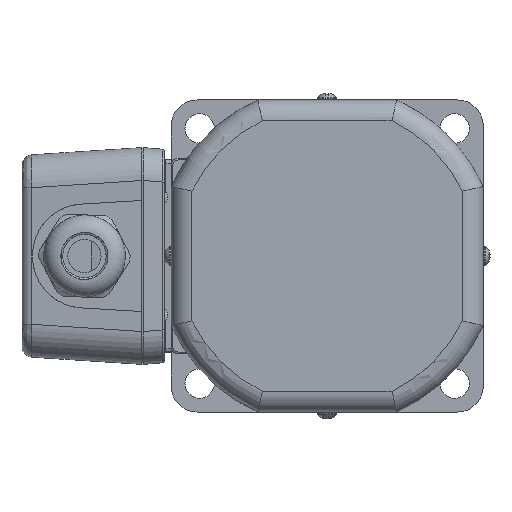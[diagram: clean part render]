
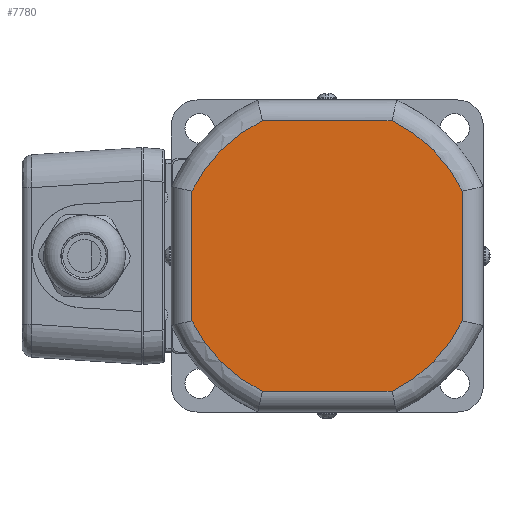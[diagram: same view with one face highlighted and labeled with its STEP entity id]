
A CAD part, left-side view. The second image highlights one B-rep face of the part: STEP entity #7780.
In plain terms, the highlighted planar face has unit normal (-1, 0, 0).
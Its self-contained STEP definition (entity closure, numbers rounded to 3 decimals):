
#446=LINE('',#11976,#1016);
#447=LINE('',#11980,#1017);
#448=LINE('',#11984,#1018);
#449=LINE('',#11988,#1019);
#1016=VECTOR('',#9273,37.393);
#1017=VECTOR('',#9276,37.393);
#1018=VECTOR('',#9279,37.393);
#1019=VECTOR('',#9282,37.393);
#1835=FACE_OUTER_BOUND('',#2330,.T.);
#2330=EDGE_LOOP('',(#5243,#5244,#5245,#5246,#5247,#5248,#5249,#5250));
#2838=CIRCLE('',#8311,43.25);
#2839=CIRCLE('',#8312,43.25);
#2840=CIRCLE('',#8313,43.25);
#2841=CIRCLE('',#8314,43.25);
#3186=VERTEX_POINT('',#11974);
#3187=VERTEX_POINT('',#11975);
#3188=VERTEX_POINT('',#11977);
#3189=VERTEX_POINT('',#11979);
#3190=VERTEX_POINT('',#11981);
#3191=VERTEX_POINT('',#11983);
#3192=VERTEX_POINT('',#11985);
#3193=VERTEX_POINT('',#11987);
#3976=EDGE_CURVE('',#3186,#3187,#446,.T.);
#3977=EDGE_CURVE('',#3188,#3186,#2838,.T.);
#3978=EDGE_CURVE('',#3189,#3188,#447,.T.);
#3979=EDGE_CURVE('',#3190,#3189,#2839,.T.);
#3980=EDGE_CURVE('',#3191,#3190,#448,.T.);
#3981=EDGE_CURVE('',#3192,#3191,#2840,.T.);
#3982=EDGE_CURVE('',#3193,#3192,#449,.T.);
#3983=EDGE_CURVE('',#3187,#3193,#2841,.T.);
#5243=ORIENTED_EDGE('',*,*,#3976,.F.);
#5244=ORIENTED_EDGE('',*,*,#3977,.F.);
#5245=ORIENTED_EDGE('',*,*,#3978,.F.);
#5246=ORIENTED_EDGE('',*,*,#3979,.F.);
#5247=ORIENTED_EDGE('',*,*,#3980,.F.);
#5248=ORIENTED_EDGE('',*,*,#3981,.F.);
#5249=ORIENTED_EDGE('',*,*,#3982,.F.);
#5250=ORIENTED_EDGE('',*,*,#3983,.F.);
#7052=PLANE('',#8310);
#7780=ADVANCED_FACE('',(#1835),#7052,.F.);
#8310=AXIS2_PLACEMENT_3D('',#11973,#9271,#9272);
#8311=AXIS2_PLACEMENT_3D('',#11978,#9274,#9275);
#8312=AXIS2_PLACEMENT_3D('',#11982,#9277,#9278);
#8313=AXIS2_PLACEMENT_3D('',#11986,#9280,#9281);
#8314=AXIS2_PLACEMENT_3D('',#11989,#9283,#9284);
#9271=DIRECTION('center_axis',(1.,0.,0.));
#9272=DIRECTION('ref_axis',(0.,1.,0.));
#9273=DIRECTION('',(0.,-1.,0.));
#9274=DIRECTION('center_axis',(1.,0.,0.));
#9275=DIRECTION('ref_axis',(0.,0.707,0.707));
#9276=DIRECTION('',(0.,0.,1.));
#9277=DIRECTION('center_axis',(1.,0.,0.));
#9278=DIRECTION('ref_axis',(0.,0.707,-0.707));
#9279=DIRECTION('',(0.,1.,0.));
#9280=DIRECTION('center_axis',(1.,0.,0.));
#9281=DIRECTION('ref_axis',(0.,-0.707,-0.707));
#9282=DIRECTION('',(0.,0.,-1.));
#9283=DIRECTION('center_axis',(1.,0.,0.));
#9284=DIRECTION('ref_axis',(0.,-0.707,0.707));
#11973=CARTESIAN_POINT('Origin',(-17.8,0.,
0.));
#11974=CARTESIAN_POINT('',(-17.8,18.697,39.));
#11975=CARTESIAN_POINT('',(-17.8,-18.697,39.));
#11976=CARTESIAN_POINT('',(-17.8,18.697,39.));
#11977=CARTESIAN_POINT('',(-17.8,39.,18.697));
#11978=CARTESIAN_POINT('Origin',(-17.8,0.,
0.));
#11979=CARTESIAN_POINT('',(-17.8,39.,-18.697));
#11980=CARTESIAN_POINT('',(-17.8,39.,-18.697));
#11981=CARTESIAN_POINT('',(-17.8,18.697,-39.));
#11982=CARTESIAN_POINT('Origin',(-17.8,0.,
0.));
#11983=CARTESIAN_POINT('',(-17.8,-18.697,-39.));
#11984=CARTESIAN_POINT('',(-17.8,-18.697,-39.));
#11985=CARTESIAN_POINT('',(-17.8,-39.,-18.697));
#11986=CARTESIAN_POINT('Origin',(-17.8,0.,
0.));
#11987=CARTESIAN_POINT('',(-17.8,-39.,18.697));
#11988=CARTESIAN_POINT('',(-17.8,-39.,18.697));
#11989=CARTESIAN_POINT('Origin',(-17.8,0.,
0.));
